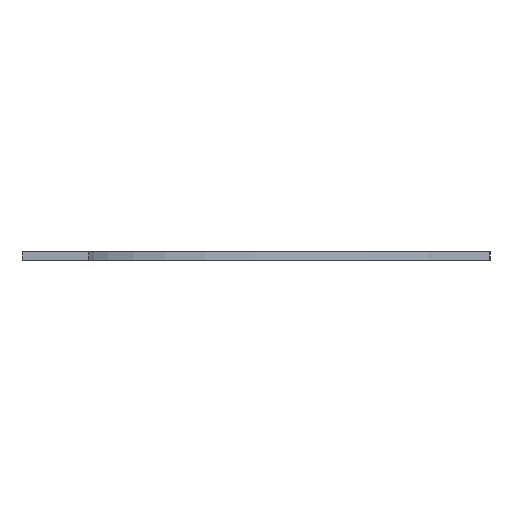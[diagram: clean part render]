
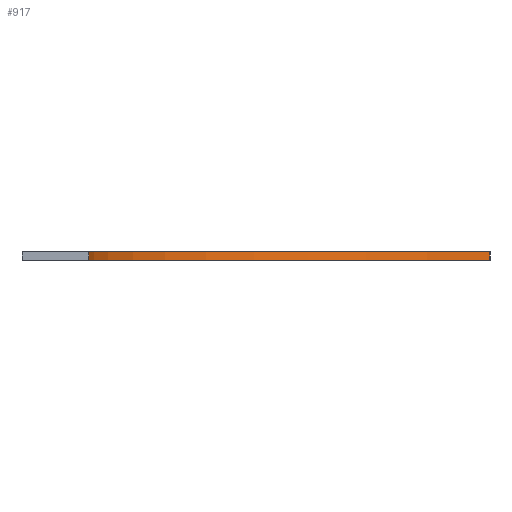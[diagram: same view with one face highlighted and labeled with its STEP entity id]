
A CAD part, left-side view. The second image highlights one B-rep face of the part: STEP entity #917.
In plain terms, the highlighted cylindrical face has radius 90 mm (diameter 180 mm), a partial arc.
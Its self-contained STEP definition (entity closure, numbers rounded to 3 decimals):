
#1 = DIRECTION ( 'NONE',  ( 0., 0., -1. ) ) ;
#57 = AXIS2_PLACEMENT_3D ( 'NONE', #1139, #966, #864 ) ;
#104 = EDGE_CURVE ( 'NONE', #865, #281, #1049, .T. ) ;
#113 = CIRCLE ( 'NONE', #315, 90. ) ;
#137 = ORIENTED_EDGE ( 'NONE', *, *, #104, .F. ) ;
#159 = DIRECTION ( 'NONE',  ( -1., 0., 0. ) ) ;
#185 = ORIENTED_EDGE ( 'NONE', *, *, #399, .T. ) ;
#206 = AXIS2_PLACEMENT_3D ( 'NONE', #762, #498, #159 ) ;
#273 = ORIENTED_EDGE ( 'NONE', *, *, #549, .F. ) ;
#281 = VERTEX_POINT ( 'NONE', #1000 ) ;
#286 = ORIENTED_EDGE ( 'NONE', *, *, #513, .T. ) ;
#315 = AXIS2_PLACEMENT_3D ( 'NONE', #409, #765, #940 ) ;
#363 = CARTESIAN_POINT ( 'NONE',  ( 90., 0., 0. ) ) ;
#370 = VECTOR ( 'NONE', #1, 1000. ) ;
#399 = EDGE_CURVE ( 'NONE', #1011, #647, #113, .T. ) ;
#409 = CARTESIAN_POINT ( 'NONE',  ( 0., 0., 0. ) ) ;
#418 = LINE ( 'NONE', #444, #522 ) ;
#444 = CARTESIAN_POINT ( 'NONE',  ( 90., 0., 15. ) ) ;
#498 = DIRECTION ( 'NONE',  ( 0., 0., -1. ) ) ;
#513 = EDGE_CURVE ( 'NONE', #865, #1011, #1042, .T. ) ;
#522 = VECTOR ( 'NONE', #802, 1000. ) ;
#526 = CARTESIAN_POINT ( 'NONE',  ( 0., 90., 2. ) ) ;
#528 = CARTESIAN_POINT ( 'NONE',  ( 0., 90., 15. ) ) ;
#549 = EDGE_CURVE ( 'NONE', #281, #647, #418, .T. ) ;
#567 = EDGE_LOOP ( 'NONE', ( #273, #137, #286, #185 ) ) ;
#635 = CARTESIAN_POINT ( 'NONE',  ( 0., 90., 0. ) ) ;
#647 = VERTEX_POINT ( 'NONE', #363 ) ;
#762 = CARTESIAN_POINT ( 'NONE',  ( 0., 0., 2. ) ) ;
#765 = DIRECTION ( 'NONE',  ( 0., 0., -1. ) ) ;
#790 = FACE_OUTER_BOUND ( 'NONE', #567, .T. ) ;
#802 = DIRECTION ( 'NONE',  ( 0., 0., -1. ) ) ;
#864 = DIRECTION ( 'NONE',  ( -1., 0., 0. ) ) ;
#865 = VERTEX_POINT ( 'NONE', #526 ) ;
#872 = CYLINDRICAL_SURFACE ( 'NONE', #57, 90. ) ;
#917 = ADVANCED_FACE ( 'NONE', ( #790 ), #872, .F. ) ;
#940 = DIRECTION ( 'NONE',  ( -1., 0., 0. ) ) ;
#966 = DIRECTION ( 'NONE',  ( 0., 0., -1. ) ) ;
#1000 = CARTESIAN_POINT ( 'NONE',  ( 90., 0., 2. ) ) ;
#1011 = VERTEX_POINT ( 'NONE', #635 ) ;
#1042 = LINE ( 'NONE', #528, #370 ) ;
#1049 = CIRCLE ( 'NONE', #206, 90. ) ;
#1139 = CARTESIAN_POINT ( 'NONE',  ( 0., 0., 15. ) ) ;
